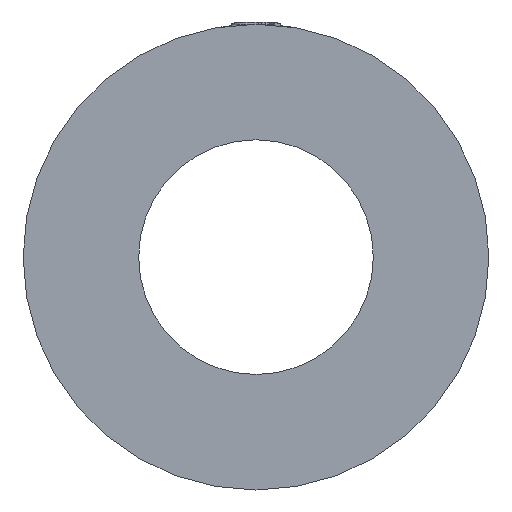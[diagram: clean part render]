
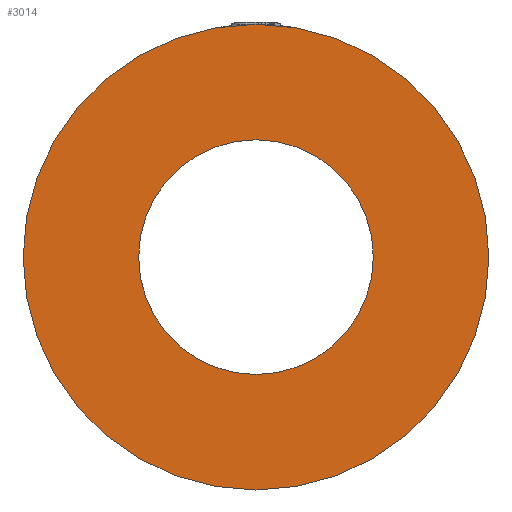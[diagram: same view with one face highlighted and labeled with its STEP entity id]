
A CAD part, left-side view. The second image highlights one B-rep face of the part: STEP entity #3014.
In plain terms, the highlighted planar face has unit normal (-1, 0, 0).
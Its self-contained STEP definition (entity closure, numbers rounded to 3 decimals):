
#122 = VERTEX_POINT ( 'NONE', #1916 ) ;
#386 = VERTEX_POINT ( 'NONE', #702 ) ;
#440 = VERTEX_POINT ( 'NONE', #978 ) ;
#485 = EDGE_LOOP ( 'NONE', ( #1689, #1729 ) ) ;
#603 = EDGE_CURVE ( 'NONE', #440, #885, #946, .T. ) ;
#640 = CIRCLE ( 'NONE', #2019, 51. ) ;
#702 = CARTESIAN_POINT ( 'NONE',  ( 0., 0., -51. ) ) ;
#760 = DIRECTION ( 'NONE',  ( 0., 0., 1. ) ) ;
#782 = DIRECTION ( 'NONE',  ( -1., 0., 0. ) ) ;
#790 = CARTESIAN_POINT ( 'NONE',  ( 0., 0., 0. ) ) ;
#813 = CARTESIAN_POINT ( 'NONE',  ( 0., 0., 0. ) ) ;
#885 = VERTEX_POINT ( 'NONE', #1334 ) ;
#946 = CIRCLE ( 'NONE', #1200, 25.7 ) ;
#967 = AXIS2_PLACEMENT_3D ( 'NONE', #1128, #1265, #1109 ) ;
#978 = CARTESIAN_POINT ( 'NONE',  ( 0., 0., -25.7 ) ) ;
#979 = EDGE_CURVE ( 'NONE', #885, #440, #2368, .T. ) ;
#994 = EDGE_CURVE ( 'NONE', #386, #122, #1808, .T. ) ;
#1088 = DIRECTION ( 'NONE',  ( 0., 0., 1. ) ) ;
#1096 = DIRECTION ( 'NONE',  ( -1., 0., 0. ) ) ;
#1098 = CARTESIAN_POINT ( 'NONE',  ( 0., 0., 0. ) ) ;
#1109 = DIRECTION ( 'NONE',  ( 0., 0., -1. ) ) ;
#1128 = CARTESIAN_POINT ( 'NONE',  ( 0., 25.7, 0. ) ) ;
#1187 = PLANE ( 'NONE',  #967 ) ;
#1200 = AXIS2_PLACEMENT_3D ( 'NONE', #2402, #2400, #2394 ) ;
#1265 = DIRECTION ( 'NONE',  ( 1., 0., 0. ) ) ;
#1290 = FACE_BOUND ( 'NONE', #485, .T. ) ;
#1334 = CARTESIAN_POINT ( 'NONE',  ( 0., 0., 25.7 ) ) ;
#1362 = DIRECTION ( 'NONE',  ( 0., 0., 1. ) ) ;
#1577 = EDGE_CURVE ( 'NONE', #122, #386, #640, .T. ) ;
#1689 = ORIENTED_EDGE ( 'NONE', *, *, #979, .F. ) ;
#1729 = ORIENTED_EDGE ( 'NONE', *, *, #603, .F. ) ;
#1808 = CIRCLE ( 'NONE', #2500, 51. ) ;
#1838 = FACE_OUTER_BOUND ( 'NONE', #1922, .T. ) ;
#1850 = ORIENTED_EDGE ( 'NONE', *, *, #1577, .T. ) ;
#1890 = ORIENTED_EDGE ( 'NONE', *, *, #994, .T. ) ;
#1916 = CARTESIAN_POINT ( 'NONE',  ( 0., 0., 51. ) ) ;
#1922 = EDGE_LOOP ( 'NONE', ( #1850, #1890 ) ) ;
#1952 = DIRECTION ( 'NONE',  ( -1., 0., 0. ) ) ;
#2019 = AXIS2_PLACEMENT_3D ( 'NONE', #1098, #1096, #1088 ) ;
#2368 = CIRCLE ( 'NONE', #2541, 25.7 ) ;
#2394 = DIRECTION ( 'NONE',  ( 0., 0., 1. ) ) ;
#2400 = DIRECTION ( 'NONE',  ( -1., 0., 0. ) ) ;
#2402 = CARTESIAN_POINT ( 'NONE',  ( 0., 0., 0. ) ) ;
#2500 = AXIS2_PLACEMENT_3D ( 'NONE', #790, #782, #760 ) ;
#2541 = AXIS2_PLACEMENT_3D ( 'NONE', #813, #1952, #1362 ) ;
#3014 = ADVANCED_FACE ( 'NONE', ( #1290, #1838 ), #1187, .F. ) ;
